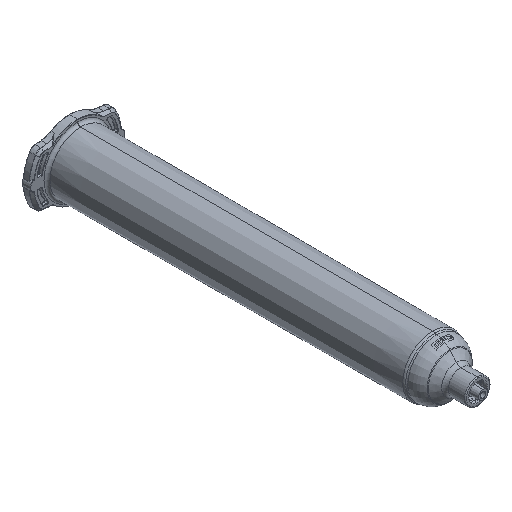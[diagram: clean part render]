
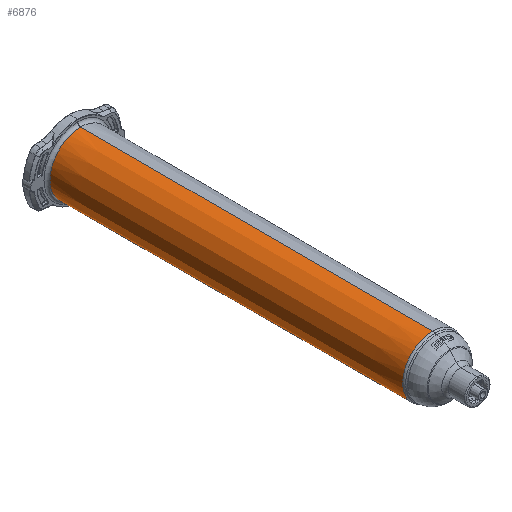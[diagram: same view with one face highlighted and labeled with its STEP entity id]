
A CAD part, isometric view. The second image highlights one B-rep face of the part: STEP entity #6876.
In plain terms, the highlighted conical face has half-angle 0.128 degrees and reference radius 12.735 mm.
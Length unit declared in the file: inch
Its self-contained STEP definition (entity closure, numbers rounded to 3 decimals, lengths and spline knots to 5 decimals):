
#464 = EDGE_CURVE ( 'NONE', #2676, #920, #15878, .T. ) ;
#833 = CARTESIAN_POINT ( 'NONE',  ( 0., 0.84271, 0. ) ) ;
#920 = VERTEX_POINT ( 'NONE', #7474 ) ;
#1347 = EDGE_CURVE ( 'NONE', #14619, #9966, #20340, .T. ) ;
#2381 = VECTOR ( 'NONE', #20112, 39.37008 ) ;
#2632 = ORIENTED_EDGE ( 'NONE', *, *, #1347, .F. ) ;
#2676 = VERTEX_POINT ( 'NONE', #18097 ) ;
#2860 = CIRCLE ( 'NONE', #6939, 0.51458 ) ;
#3133 = ORIENTED_EDGE ( 'NONE', *, *, #12017, .T. ) ;
#4526 = DIRECTION ( 'NONE',  ( 0., 0., -1. ) ) ;
#5703 = VECTOR ( 'NONE', #7055, 39.37008 ) ;
#6695 = DIRECTION ( 'NONE',  ( 0., 0., 1. ) ) ;
#6804 = DIRECTION ( 'NONE',  ( 0., -1., 0. ) ) ;
#6876 = ADVANCED_FACE ( 'NONE', ( #16049 ), #12194, .T. ) ;
#6939 = AXIS2_PLACEMENT_3D ( 'NONE', #13892, #6804, #6695 ) ;
#7055 = DIRECTION ( 'NONE',  ( 0., 1., 0.002 ) ) ;
#7474 = CARTESIAN_POINT ( 'NONE',  ( 0., 6.73011, 0.51458 ) ) ;
#7986 = EDGE_LOOP ( 'NONE', ( #2632, #14820, #16762, #3133 ) ) ;
#9966 = VERTEX_POINT ( 'NONE', #10191 ) ;
#10191 = CARTESIAN_POINT ( 'NONE',  ( 0., 6.73011, -0.51458 ) ) ;
#10709 = AXIS2_PLACEMENT_3D ( 'NONE', #833, #15330, #4526 ) ;
#12017 = EDGE_CURVE ( 'NONE', #920, #9966, #2860, .T. ) ;
#12194 = CONICAL_SURFACE ( 'NONE', #21839, 0.50139, 0.002 ) ;
#13892 = CARTESIAN_POINT ( 'NONE',  ( 0., 6.73011, 0. ) ) ;
#14619 = VERTEX_POINT ( 'NONE', #18552 ) ;
#14820 = ORIENTED_EDGE ( 'NONE', *, *, #20573, .T. ) ;
#14879 = CARTESIAN_POINT ( 'NONE',  ( 0., 0.8366, -0.50139 ) ) ;
#15330 = DIRECTION ( 'NONE',  ( 0., 1., 0. ) ) ;
#15878 = LINE ( 'NONE', #22976, #5703 ) ;
#16049 = FACE_OUTER_BOUND ( 'NONE', #7986, .T. ) ;
#16158 = DIRECTION ( 'NONE',  ( 0., 0., 1. ) ) ;
#16762 = ORIENTED_EDGE ( 'NONE', *, *, #464, .T. ) ;
#18097 = CARTESIAN_POINT ( 'NONE',  ( 0., 0.84271, 0.5014 ) ) ;
#18552 = CARTESIAN_POINT ( 'NONE',  ( 0., 0.84271, -0.5014 ) ) ;
#19657 = DIRECTION ( 'NONE',  ( 0., 1., 0. ) ) ;
#20112 = DIRECTION ( 'NONE',  ( 0., 1., -0.002 ) ) ;
#20340 = LINE ( 'NONE', #14879, #2381 ) ;
#20573 = EDGE_CURVE ( 'NONE', #14619, #2676, #22214, .T. ) ;
#21839 = AXIS2_PLACEMENT_3D ( 'NONE', #21845, #19657, #16158 ) ;
#21845 = CARTESIAN_POINT ( 'NONE',  ( 0., 0.8366, 0. ) ) ;
#22214 = CIRCLE ( 'NONE', #10709, 0.5014 ) ;
#22976 = CARTESIAN_POINT ( 'NONE',  ( 0., 0.8366, 0.50139 ) ) ;
